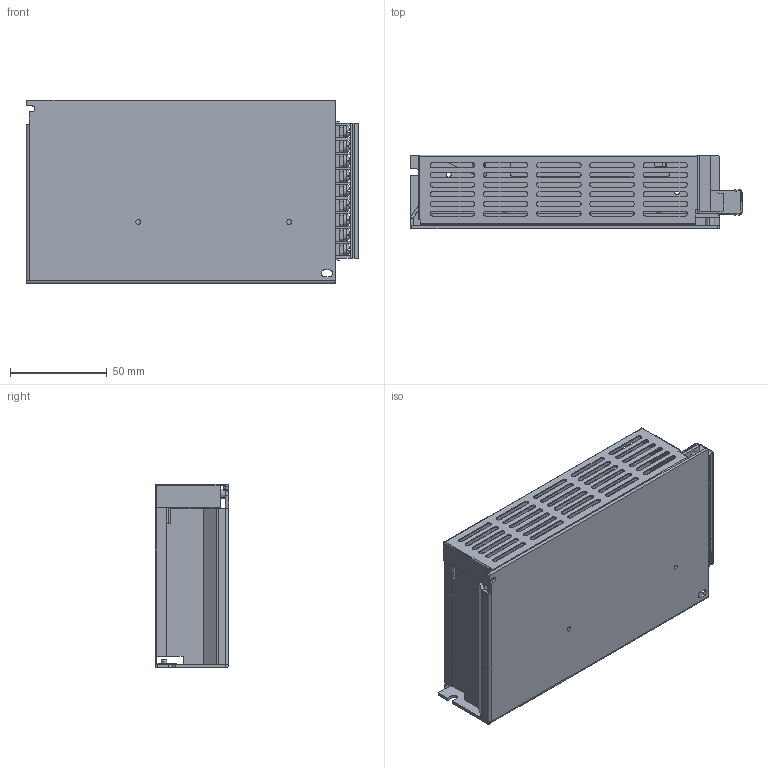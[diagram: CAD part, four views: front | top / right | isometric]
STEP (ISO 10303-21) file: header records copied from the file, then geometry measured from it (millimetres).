
FILE_DESCRIPTION (( 'STEP AP214' ), '1' );
FILE_NAME ('TXL-060P-IT.STEP', '2019-07-09T09:09:30', ( 'users' ), ( '' ), 'SwSTEP 2.0', 'SolidWorks 2012', '' );
FILE_SCHEMA (( 'AUTOMOTIVE_DESIGN' ));
Length unit declared in the file: millimetre
Products named in the file (5): TML; PCB; COVER; CASE; TXL-060P-IT
Assembly tree (4 placements, depth 2):
  TXL-060P-IT
    CASE
    COVER
    PCB
    TML
Bounding box: 171.56 x 38 x 95 mm (x, y, z)
Volume: 79597.3 mm3; surface area: 123582.8 mm2
Topology: 5 solids, 5 shells, 1414 faces, 3994 edges, 2603 vertices
Faces by surface type: plane 863, cylinder 533, torus 18
Entity records: 51483 total; most frequent: CARTESIAN_POINT 8522, ORIENTED_EDGE 7988, DIRECTION 7866, EDGE_CURVE 3994, LINE 2748, VECTOR 2748, VERTEX_POINT 2603, AXIS2_PLACEMENT_3D 2559
